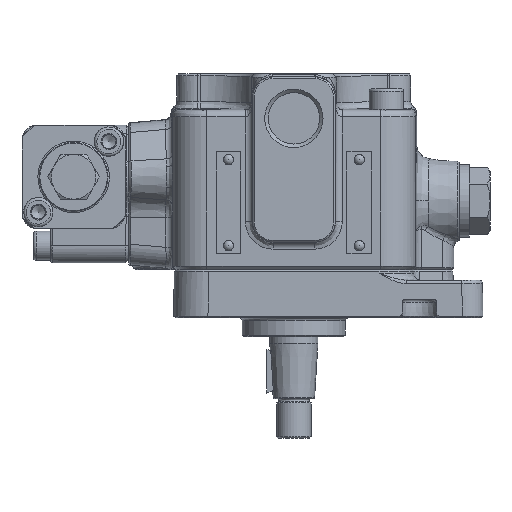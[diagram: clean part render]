
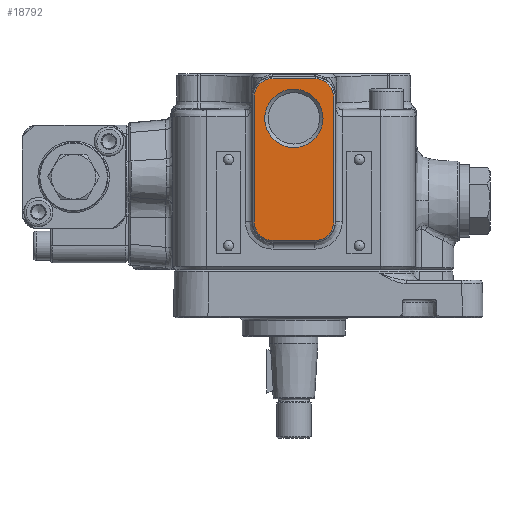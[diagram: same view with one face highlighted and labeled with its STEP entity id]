
A CAD part, left-side view. The second image highlights one B-rep face of the part: STEP entity #18792.
In plain terms, the highlighted planar face has unit normal (-1, 0, 0).
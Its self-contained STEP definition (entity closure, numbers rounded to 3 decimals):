
#1335=B_SPLINE_CURVE_WITH_KNOTS('',3,(#51474,#51475,#51476,#51477,#51478,
#51479,#51480,#51481,#51482,#51483,#51484,#51485),.UNSPECIFIED.,.F.,.F.,
(4,2,2,2,2,4),(-0.777,-0.679,-0.58,
-0.39,-0.2,0.),.UNSPECIFIED.);
#1336=B_SPLINE_CURVE_WITH_KNOTS('',3,(#51543,#51544,#51545,#51546,#51547,
#51548,#51549,#51550,#51551,#51552,#51553,#51554),.UNSPECIFIED.,.F.,.F.,
(4,2,2,2,2,4),(-0.778,-0.678,-0.579,
-0.389,-0.2,0.),.UNSPECIFIED.);
#1395=B_SPLINE_CURVE_WITH_KNOTS('',3,(#55364,#55365,#55366,#55367,#55368,
#55369,#55370,#55371,#55372,#55373,#55374,#55375),.UNSPECIFIED.,.F.,.F.,
(4,2,2,2,2,4),(-0.778,-0.678,-0.578,
-0.389,-0.2,0.),.UNSPECIFIED.);
#1396=B_SPLINE_CURVE_WITH_KNOTS('',3,(#55430,#55431,#55432,#55433,#55434,
#55435,#55436,#55437,#55438,#55439,#55440,#55441),.UNSPECIFIED.,.F.,.F.,
(4,2,2,2,2,4),(-0.776,-0.678,-0.578,-0.389,
-0.2,0.),.UNSPECIFIED.);
#1461=FACE_BOUND('',#4373,.T.);
#2153=CIRCLE('',#20416,8.475);
#3215=FACE_OUTER_BOUND('',#4372,.T.);
#4372=EDGE_LOOP('',(#15889,#15890,#15891,#15892,#15893,#15894,#15895,#15896));
#4373=EDGE_LOOP('',(#15897));
#5443=LINE('',#51490,#6618);
#5447=LINE('',#51583,#6622);
#5569=LINE('',#55379,#6744);
#5572=LINE('',#55444,#6747);
#6618=VECTOR('',#24354,10.);
#6622=VECTOR('',#24360,10.);
#6744=VECTOR('',#24686,10.);
#6747=VECTOR('',#24691,10.);
#8190=VERTEX_POINT('',#51472);
#8191=VERTEX_POINT('',#51473);
#8192=VERTEX_POINT('',#51489);
#8194=VERTEX_POINT('',#51542);
#8196=VERTEX_POINT('',#51582);
#8290=VERTEX_POINT('',#55363);
#8291=VERTEX_POINT('',#55378);
#8292=VERTEX_POINT('',#55429);
#8294=VERTEX_POINT('',#55451);
#10624=EDGE_CURVE('',#8190,#8191,#1335,.T.);
#10627=EDGE_CURVE('',#8192,#8190,#5443,.T.);
#10630=EDGE_CURVE('',#8194,#8192,#1336,.T.);
#10633=EDGE_CURVE('',#8196,#8194,#5447,.T.);
#10843=EDGE_CURVE('',#8290,#8196,#1395,.T.);
#10845=EDGE_CURVE('',#8291,#8290,#5569,.T.);
#10847=EDGE_CURVE('',#8292,#8291,#1396,.T.);
#10849=EDGE_CURVE('',#8191,#8292,#5572,.T.);
#10851=EDGE_CURVE('',#8294,#8294,#2153,.T.);
#15889=ORIENTED_EDGE('',*,*,#10633,.F.);
#15890=ORIENTED_EDGE('',*,*,#10843,.F.);
#15891=ORIENTED_EDGE('',*,*,#10845,.F.);
#15892=ORIENTED_EDGE('',*,*,#10847,.F.);
#15893=ORIENTED_EDGE('',*,*,#10849,.F.);
#15894=ORIENTED_EDGE('',*,*,#10624,.F.);
#15895=ORIENTED_EDGE('',*,*,#10627,.F.);
#15896=ORIENTED_EDGE('',*,*,#10630,.F.);
#15897=ORIENTED_EDGE('',*,*,#10851,.T.);
#16647=PLANE('',#20415);
#18792=ADVANCED_FACE('',(#3215,#1461),#16647,.F.);
#20415=AXIS2_PLACEMENT_3D('',#55450,#24700,#24701);
#20416=AXIS2_PLACEMENT_3D('',#55452,#24702,#24703);
#24354=DIRECTION('',(0.,0.,-1.));
#24360=DIRECTION('',(0.,-1.,0.));
#24686=DIRECTION('',(0.,0.,1.));
#24691=DIRECTION('',(0.,1.,0.));
#24700=DIRECTION('center_axis',(1.,0.,0.));
#24701=DIRECTION('ref_axis',(0.,1.,0.));
#24702=DIRECTION('center_axis',(1.,0.,0.));
#24703=DIRECTION('ref_axis',(0.,0.,1.));
#51472=CARTESIAN_POINT('',(-46.616,-11.26,-13.948));
#51473=CARTESIAN_POINT('',(-46.616,-5.733,-19.448));
#51474=CARTESIAN_POINT('Ctrl Pts',(-46.616,-11.26,
-13.948));
#51475=CARTESIAN_POINT('Ctrl Pts',(-46.616,-11.26,
-14.321));
#51476=CARTESIAN_POINT('Ctrl Pts',(-46.616,-11.222,
-14.695));
#51477=CARTESIAN_POINT('Ctrl Pts',(-46.616,-11.071,
-15.428));
#51478=CARTESIAN_POINT('Ctrl Pts',(-46.616,-10.958,
-15.786));
#51479=CARTESIAN_POINT('Ctrl Pts',(-46.616,-10.525,
-16.787));
#51480=CARTESIAN_POINT('Ctrl Pts',(-46.616,-10.114,
-17.384));
#51481=CARTESIAN_POINT('Ctrl Pts',(-46.616,-9.086,
-18.387));
#51482=CARTESIAN_POINT('Ctrl Pts',(-46.616,-8.48,
-18.782));
#51483=CARTESIAN_POINT('Ctrl Pts',(-46.616,-7.112,
-19.332));
#51484=CARTESIAN_POINT('Ctrl Pts',(-46.616,-6.401,
-19.451));
#51485=CARTESIAN_POINT('Ctrl Pts',(-46.616,-5.733,
-19.448));
#51489=CARTESIAN_POINT('',(-46.616,-11.26,22.098));
#51490=CARTESIAN_POINT('',(-46.616,-11.26,-11.936));
#51542=CARTESIAN_POINT('',(-46.616,-5.735,27.624));
#51543=CARTESIAN_POINT('Ctrl Pts',(-46.616,-5.735,
27.624));
#51544=CARTESIAN_POINT('Ctrl Pts',(-46.616,-6.113,
27.626));
#51545=CARTESIAN_POINT('Ctrl Pts',(-46.616,-6.492,
27.588));
#51546=CARTESIAN_POINT('Ctrl Pts',(-46.616,-7.234,
27.437));
#51547=CARTESIAN_POINT('Ctrl Pts',(-46.616,-7.597,
27.322));
#51548=CARTESIAN_POINT('Ctrl Pts',(-46.616,-8.603,26.887));
#51549=CARTESIAN_POINT('Ctrl Pts',(-46.616,-9.199,
26.477));
#51550=CARTESIAN_POINT('Ctrl Pts',(-46.616,-10.2,
25.449));
#51551=CARTESIAN_POINT('Ctrl Pts',(-46.616,-10.595,
24.843));
#51552=CARTESIAN_POINT('Ctrl Pts',(-46.616,-11.145,
23.476));
#51553=CARTESIAN_POINT('Ctrl Pts',(-46.616,-11.264,
22.765));
#51554=CARTESIAN_POINT('Ctrl Pts',(-46.616,-11.26,
22.098));
#51582=CARTESIAN_POINT('',(-46.616,6.357,27.624));
#51583=CARTESIAN_POINT('',(-46.616,-23.689,27.624));
#55363=CARTESIAN_POINT('',(-46.616,11.883,22.098));
#55364=CARTESIAN_POINT('Ctrl Pts',(-46.616,11.883,22.098));
#55365=CARTESIAN_POINT('Ctrl Pts',(-46.616,11.885,22.476));
#55366=CARTESIAN_POINT('Ctrl Pts',(-46.616,11.847,22.856));
#55367=CARTESIAN_POINT('Ctrl Pts',(-46.616,11.696,23.598));
#55368=CARTESIAN_POINT('Ctrl Pts',(-46.616,11.581,23.961));
#55369=CARTESIAN_POINT('Ctrl Pts',(-46.616,11.146,24.966));
#55370=CARTESIAN_POINT('Ctrl Pts',(-46.616,10.736,25.562));
#55371=CARTESIAN_POINT('Ctrl Pts',(-46.616,9.708,26.564));
#55372=CARTESIAN_POINT('Ctrl Pts',(-46.616,9.102,26.959));
#55373=CARTESIAN_POINT('Ctrl Pts',(-46.616,7.735,27.509));
#55374=CARTESIAN_POINT('Ctrl Pts',(-46.616,7.023,27.627));
#55375=CARTESIAN_POINT('Ctrl Pts',(-46.616,6.357,27.624));
#55378=CARTESIAN_POINT('',(-46.616,11.883,-13.948));
#55379=CARTESIAN_POINT('',(-46.616,11.883,-11.936));
#55429=CARTESIAN_POINT('',(-46.616,6.356,-19.448));
#55430=CARTESIAN_POINT('Ctrl Pts',(-46.616,6.356,-19.448));
#55431=CARTESIAN_POINT('Ctrl Pts',(-46.616,6.731,-19.449));
#55432=CARTESIAN_POINT('Ctrl Pts',(-46.616,7.106,-19.413));
#55433=CARTESIAN_POINT('Ctrl Pts',(-46.616,7.842,-19.264));
#55434=CARTESIAN_POINT('Ctrl Pts',(-46.616,8.202,-19.151));
#55435=CARTESIAN_POINT('Ctrl Pts',(-46.616,9.206,-18.722));
#55436=CARTESIAN_POINT('Ctrl Pts',(-46.616,9.803,-18.314));
#55437=CARTESIAN_POINT('Ctrl Pts',(-46.616,10.809,-17.29));
#55438=CARTESIAN_POINT('Ctrl Pts',(-46.616,11.206,-16.687));
#55439=CARTESIAN_POINT('Ctrl Pts',(-46.616,11.761,-15.323));
#55440=CARTESIAN_POINT('Ctrl Pts',(-46.616,11.883,-14.614));
#55441=CARTESIAN_POINT('Ctrl Pts',(-46.616,11.883,-13.948));
#55444=CARTESIAN_POINT('',(-46.616,-23.689,-19.448));
#55450=CARTESIAN_POINT('Origin',(-46.616,-47.689,-27.948));
#55451=CARTESIAN_POINT('',(-46.616,0.311,7.577));
#55452=CARTESIAN_POINT('Origin',(-46.616,0.311,16.052));
